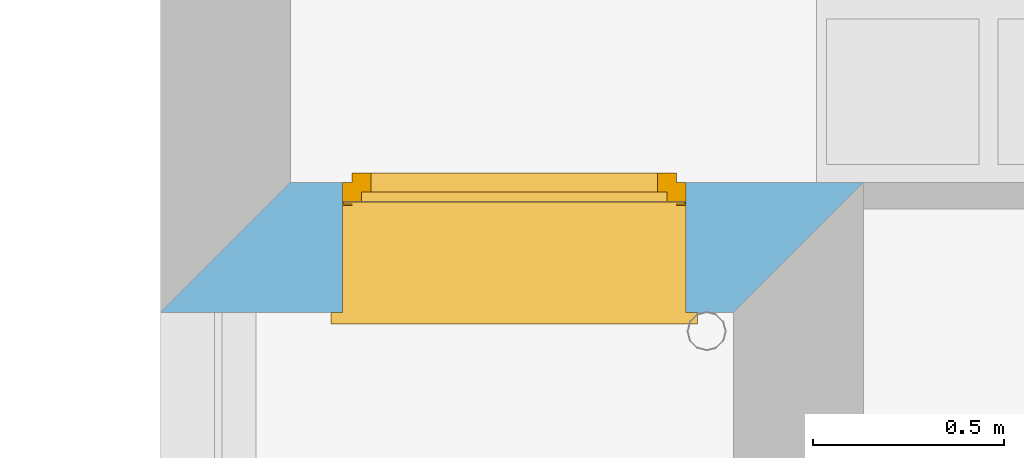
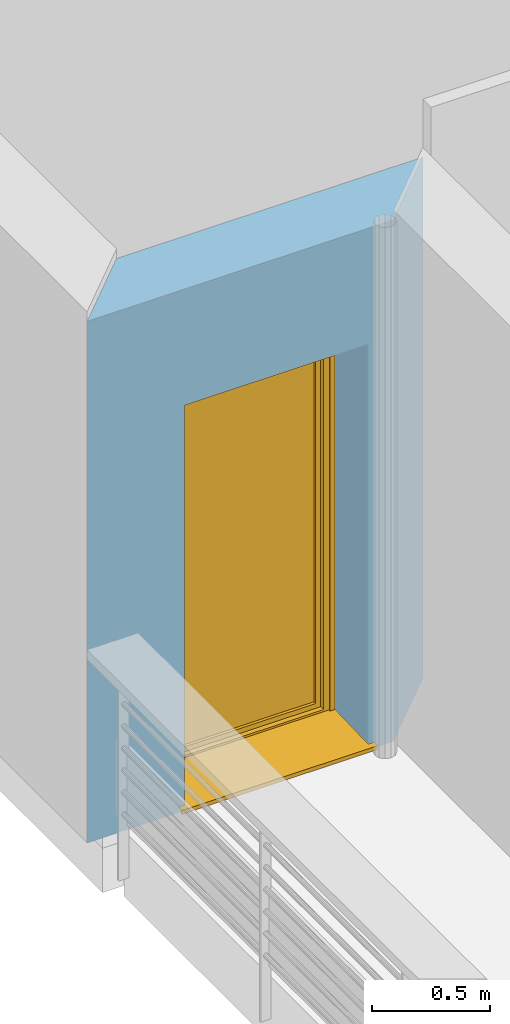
# One storey, part 107 of 171: 1 window, 1 opening, plus 1 element that does not belong to this part.
"""IFC2X3 building model written with IfcOpenShell, lengths in millimetres."""

import ifcopenshell
import ifcopenshell.guid

model = None  # the IFC model being written
_history = None  # IfcOwnerHistory: only IFC2X3 demands one
_inside = {}  # id of a spatial element -> (the spatial element, [elements in it])
_under = {}  # id of a project, library or spatial element -> (it, [spatial elements below it])
_declared = {}  # id of a project -> (the project, [libraries it declares])
_typed = {}  # id of a type object -> (the type object, [elements of that type])
_made_of = {}  # id of a material, layer set ... -> (it, [elements and type objects made of it])


def new_model(schema):
    """Start an empty IFC model of exactly this schema.

    Asked for "IFC4X3", IfcOpenShell would pick the latest addendum, in which some entities
    have other attributes; the version numbers below select the first issue.
    IFC2X3 requires an IfcOwnerHistory on every rooted entity: one is made here for all.
    """
    global model, _history
    if schema == "IFC4X3":
        model = ifcopenshell.file(schema_version=(4, 3, 0, 0))
    else:
        model = ifcopenshell.file(schema=schema)
    _inside.clear()
    _under.clear()
    _declared.clear()
    _typed.clear()
    _made_of.clear()
    _history = None
    if model.schema == "IFC2X3":
        org = make("IfcOrganization", Name="unknown")
        user = make(
            "IfcPersonAndOrganization",
            ThePerson=make("IfcPerson", FamilyName="unknown"),
            TheOrganization=org,
        )
        app = make(
            "IfcApplication",
            ApplicationDeveloper=org,
            Version="unknown",
            ApplicationFullName="unknown",
            ApplicationIdentifier="unknown",
        )
        _history = make(
            "IfcOwnerHistory",
            OwningUser=user,
            OwningApplication=app,
            ChangeAction="ADDED",
            CreationDate=0,
        )
    return model


def make(cls, **values):
    """One entity of the class cls with the attributes given. An attribute that is None is left unset."""
    return model.create_entity(
        cls, **{name: value for name, value in values.items() if value is not None}
    )


def entity(cls, *values):
    """Any entity or typed value of the class cls, its attributes in the order of the schema. None: left unset."""
    e = model.create_entity(cls)
    for i, value in enumerate(values):
        if value is not None:
            e[i] = value
    return e


def rooted(cls, **values):
    """An entity with a GlobalId (a new one), such as an element, a storey or a relation."""
    return make(cls, GlobalId=ifcopenshell.guid.new(), OwnerHistory=_history, **values)


def si_unit(unit_type, name, prefix=None):
    """IfcSIUnit, for example si_unit("LENGTHUNIT", "METRE", prefix="MILLI")."""
    return make("IfcSIUnit", UnitType=unit_type, Prefix=prefix, Name=name)


def converted_unit(unit_type, name, factor, base, dimensions=None, offset=None):
    """IfcConversionBasedUnit, such as the inch: factor (a typed value) times the base unit."""
    return make(
        "IfcConversionBasedUnit"
        if offset is None
        else "IfcConversionBasedUnitWithOffset",
        ConversionOffset=offset,
        Dimensions=None
        if dimensions is None
        else entity("IfcDimensionalExponents", *dimensions),
        UnitType=unit_type,
        Name=name,
        ConversionFactor=make(
            "IfcMeasureWithUnit", ValueComponent=factor, UnitComponent=base
        ),
    )


def derived_unit(unit_type, elements):
    """IfcDerivedUnit: a product of units, each with its exponent."""
    return make(
        "IfcDerivedUnit",
        Elements=[
            make("IfcDerivedUnitElement", Unit=unit, Exponent=power)
            for unit, power in elements
        ],
        UnitType=unit_type,
    )


def money_unit(currency):
    """IfcMonetaryUnit."""
    return make("IfcMonetaryUnit", Currency=currency)


def assignment(units):
    """IfcUnitAssignment: the units of a project."""
    return None if units is None else make("IfcUnitAssignment", Units=units)


def point(xyz):
    """IfcCartesianPoint."""
    return None if xyz is None else make("IfcCartesianPoint", Coordinates=xyz)


def direction(xyz):
    """IfcDirection."""
    return None if xyz is None else make("IfcDirection", DirectionRatios=xyz)


def frame(location, z_axis=None, x_axis=None):
    """IfcAxis2Placement3D, a coordinate frame: its origin and axes. An axis left out is left unset."""
    return make(
        "IfcAxis2Placement3D",
        Location=point(location),
        Axis=direction(z_axis),
        RefDirection=direction(x_axis),
    )


def origin_with_axes():
    """The frame at (0, 0, 0) with the z axis (0, 0, 1) and the x axis (1, 0, 0) written out."""
    return frame((0.0, 0.0, 0.0), z_axis=(0.0, 0.0, 1.0), x_axis=(1.0, 0.0, 0.0))


def place(relative_to, where):
    """IfcLocalPlacement: puts the frame where relative to a parent placement (None: the world)."""
    return make(
        "IfcLocalPlacement", PlacementRelTo=relative_to, RelativePlacement=where
    )


def context(
    kind, dimensions, precision=None, world=None, true_north=None, identifier=None
):
    """IfcGeometricRepresentationContext, for example the 3D "Model" context."""
    return make(
        "IfcGeometricRepresentationContext",
        ContextIdentifier=identifier,
        ContextType=kind,
        CoordinateSpaceDimension=dimensions,
        Precision=precision,
        WorldCoordinateSystem=world,
        TrueNorth=true_north,
    )


def subcontext(parent, identifier, kind, view, scale=None):
    """IfcGeometricRepresentationSubContext, for example "Body" below "Model"."""
    return make(
        "IfcGeometricRepresentationSubContext",
        ContextIdentifier=identifier,
        ContextType=kind,
        ParentContext=parent,
        TargetScale=scale,
        TargetView=view,
    )


def project(units=None, contexts=None):
    """IfcProject with its units and contexts."""
    return rooted(
        "IfcProject",
        Name="project",
        RepresentationContexts=contexts,
        UnitsInContext=assignment(units),
    )


def spatial(cls, under=None, at=None, **own):
    """A site, building, storey or space (cls), placed at a placement, below another one or the project."""
    s = rooted(cls, ObjectPlacement=at, **own)
    if under is not None:
        _under.setdefault(under.id(), (under, []))[1].append(s)
    return s


def polyline(points):
    """IfcPolyline through the points."""
    return make("IfcPolyline", Points=[point(p) for p in points])


def outline(outer, holes=None, kind="AREA"):
    """IfcArbitraryClosedProfileDef: a profile drawn as a closed curve; with holes, ...WithVoids."""
    if holes is None:
        return make("IfcArbitraryClosedProfileDef", ProfileType=kind, OuterCurve=outer)
    return make(
        "IfcArbitraryProfileDefWithVoids",
        ProfileType=kind,
        OuterCurve=outer,
        InnerCurves=holes,
    )


def extrude(swept, where, along, depth):
    """IfcExtrudedAreaSolid: the profile swept, set in the frame where, extruded along a direction by depth."""
    return make(
        "IfcExtrudedAreaSolid",
        SweptArea=swept,
        Position=where,
        ExtrudedDirection=direction(along),
        Depth=depth,
    )


def faces_of(points, faces, orient=None, outer=None):
    """IfcFace entities. A face is a list of loops; a loop is a list of indices into points, from 0.

    orient and outer hold one flag for each loop. By default every Orientation is true, the
    first loop of a face is its IfcFaceOuterBound and the others are IfcFaceBound.
    """
    made = []
    for i, loops in enumerate(faces):
        bounds = []
        for j, loop in enumerate(loops):
            is_outer = j == 0 if outer is None else outer[i][j]
            bounds.append(
                make(
                    "IfcFaceOuterBound" if is_outer else "IfcFaceBound",
                    Bound=make("IfcPolyLoop", Polygon=[points[k] for k in loop]),
                    Orientation=True if orient is None else orient[i][j],
                )
            )
        made.append(make("IfcFace", Bounds=bounds))
    return made


def open_shell(faces, orient=None, outer=None):
    """The faces of one IfcOpenShell. surface_model builds it on its shared points."""
    return ("IfcOpenShell", faces, orient, outer)


def faceted_brep(points, faces, orient=None, outer=None, voids=None):
    """IfcFacetedBrep: a solid bounded by flat faces; with voids (closed shells), ...WithVoids."""
    shared = [point(p) for p in points]
    hull = make("IfcClosedShell", CfsFaces=faces_of(shared, faces, orient, outer))
    if voids is None:
        return make("IfcFacetedBrep", Outer=hull)
    return make(
        "IfcFacetedBrepWithVoids",
        Outer=hull,
        Voids=[
            make(cls, CfsFaces=faces_of(shared, fs, o, b)) for cls, fs, o, b in voids
        ],
    )


def surface_model(cls, points, shells):
    """IfcFaceBasedSurfaceModel or IfcShellBasedSurfaceModel (cls): surfaces that need not close."""
    shared = [point(p) for p in points]
    made = [make(c, CfsFaces=faces_of(shared, fs, o, b)) for c, fs, o, b in shells]
    if cls == "IfcFaceBasedSurfaceModel":
        return make(cls, FbsmFaces=made)
    return make(cls, SbsmBoundary=made)


def shape(context_of_items, identifier, shape_type, items):
    """IfcShapeRepresentation: the items that make up one representation, for example the "Body"."""
    return make(
        "IfcShapeRepresentation",
        ContextOfItems=context_of_items,
        RepresentationIdentifier=identifier,
        RepresentationType=shape_type,
        Items=items,
    )


def material(Name=None, Category=None):
    """IfcMaterial."""
    return make("IfcMaterial", Name=Name, Category=Category)


def layer(
    of_material, thickness, ventilated=None, Name=None, Category=None, Priority=None
):
    """IfcMaterialLayer: one layer of a wall or slab, of a material (None: an air gap)."""
    return make(
        "IfcMaterialLayer",
        Material=of_material,
        LayerThickness=thickness,
        IsVentilated=ventilated,
        Name=Name,
        Category=Category,
        Priority=Priority,
    )


def layer_set(layers, Name=None):
    """IfcMaterialLayerSet."""
    return make("IfcMaterialLayerSet", MaterialLayers=layers, LayerSetName=Name)


def layer_usage(for_layer_set, set_direction, sense, offset, extent=None):
    """IfcMaterialLayerSetUsage: how a layer set lies in its element."""
    return make(
        "IfcMaterialLayerSetUsage",
        ForLayerSet=for_layer_set,
        LayerSetDirection=set_direction,
        DirectionSense=sense,
        OffsetFromReferenceLine=offset,
        ReferenceExtent=extent,
    )


def made_of(thing, what):
    """Note that an element or type object is made of a material, layer set ...; save() writes the relation."""
    if what is not None:
        _made_of.setdefault(what.id(), (what, []))[1].append(thing)
    return thing


def type_object(cls, material=None, **own):
    """A type object (cls), such as IfcWallType, which elements share."""
    return made_of(rooted(cls, **own), material)


def element(
    cls,
    number,
    at=None,
    inside=None,
    cuts=None,
    type_object=None,
    material=None,
    context=None,
    identifier="Body",
    shape_type=None,
    held_by="IfcProductDefinitionShape",
    body=None,
    shapes=None,
    **own,
):
    """One element of the class cls, such as IfcWall. Its Tag is "e" and its number.

    at: its placement. inside: the storey or other place that contains it. cuts: it is an
    opening in that element (IfcRelVoidsElement). A single representation is given by context,
    identifier, shape_type and body (its items); several are given by shapes. held_by: the class
    of the entity that holds the representations. save() writes the other relations.
    """
    e = rooted(cls, Tag="e%d" % number, ObjectPlacement=at, **own)
    if body is not None:
        shapes = [shape(context, identifier, shape_type, body)]
    if shapes is not None:
        e.Representation = make(held_by, Representations=shapes)
    if inside is not None:
        _inside.setdefault(inside.id(), (inside, []))[1].append(e)
    if cuts is not None:
        rooted(
            "IfcRelVoidsElement", RelatingBuildingElement=cuts, RelatedOpeningElement=e
        )
    if type_object is not None:
        _typed.setdefault(type_object.id(), (type_object, []))[1].append(e)
    return made_of(e, material)


def fill(opening, filler):
    """IfcRelFillsElement: the door or window that sits in an opening."""
    return rooted(
        "IfcRelFillsElement",
        RelatingOpeningElement=opening,
        RelatedBuildingElement=filler,
    )


def aggregate(whole, parts):
    """IfcRelAggregates: a whole, such as a stair, and the parts it consists of."""
    return rooted("IfcRelAggregates", RelatingObject=whole, RelatedObjects=parts)


def save(model, path):
    """Write the relations noted so far, then the file.

    IfcRelAggregates (storeys below a building ...), IfcRelContainedInSpatialStructure (elements
    in a storey), IfcRelDefinesByType, IfcRelAssociatesMaterial and IfcRelDeclares: one each for
    every whole, place, type object, material and project.
    """
    for whole, parts in _under.values():
        aggregate(whole, parts)
    for where, things in _inside.values():
        rooted(
            "IfcRelContainedInSpatialStructure",
            RelatedElements=things,
            RelatingStructure=where,
        )
    for kind, things in _typed.values():
        rooted("IfcRelDefinesByType", RelatedObjects=things, RelatingType=kind)
    for what, things in _made_of.values():
        rooted("IfcRelAssociatesMaterial", RelatedObjects=things, RelatingMaterial=what)
    for by, libraries in _declared.values():
        rooted("IfcRelDeclares", RelatingContext=by, RelatedDefinitions=libraries)
    model.write(path)


model = new_model("IFC2X3")

# Units and contexts
model_context = context("Model", 3, precision=0.01, world=origin_with_axes(), true_north=direction((0.0, 1.0)))
body_context = subcontext(model_context, "Body", "Model", "MODEL_VIEW")
ifc_project = project(units=[si_unit("LENGTHUNIT", "METRE", prefix="MILLI"), si_unit("AREAUNIT", "SQUARE_METRE"), si_unit("VOLUMEUNIT", "CUBIC_METRE"), converted_unit("PLANEANGLEUNIT", "DEGREE", entity("IfcPlaneAngleMeasure", 0.0174532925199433), si_unit("PLANEANGLEUNIT", "RADIAN"), dimensions=[0, 0, 0, 0, 0, 0, 0]), money_unit("USD"), converted_unit("TIMEUNIT", "Year", entity("IfcTimeMeasure", 31557600.0), si_unit("TIMEUNIT", "SECOND"), dimensions=[0, 0, 1, 0, 0, 0, 0]), si_unit("MASSUNIT", "GRAM", prefix="KILO"), si_unit("THERMODYNAMICTEMPERATUREUNIT", "DEGREE_CELSIUS"), si_unit("LUMINOUSINTENSITYUNIT", "LUMEN"), si_unit("ENERGYUNIT", "JOULE", prefix="MEGA"), derived_unit("THERMALCONDUCTANCEUNIT", [(si_unit("POWERUNIT", "WATT"), 1), (si_unit("LENGTHUNIT", "METRE"), -1), (si_unit("THERMODYNAMICTEMPERATUREUNIT", "KELVIN"), -1)]), derived_unit("SPECIFICHEATCAPACITYUNIT", [(si_unit("ENERGYUNIT", "JOULE"), 1), (si_unit("MASSUNIT", "GRAM", prefix="KILO"), -1), (si_unit("THERMODYNAMICTEMPERATUREUNIT", "KELVIN"), -1)]), derived_unit("MASSDENSITYUNIT", [(si_unit("MASSUNIT", "GRAM", prefix="KILO"), 1), (si_unit("VOLUMEUNIT", "CUBIC_METRE"), -1)])], contexts=[model_context])

# Site, building, storey
site_placement = place(None, origin_with_axes())
site = spatial("IfcSite", under=ifc_project, at=site_placement, Name="Site", CompositionType="ELEMENT")
building_placement = place(site_placement, origin_with_axes())
building = spatial("IfcBuilding", under=site, at=building_placement, Name="Bâtiment", CompositionType="ELEMENT")
storey_placement = place(building_placement, frame((0.0, 0.0, 3000.0), z_axis=(0.0, 0.0, 1.0), x_axis=(1.0, 0.0, 0.0)))
storey = spatial("IfcBuildingStorey", under=building, at=storey_placement, Name="rdc", CompositionType="ELEMENT", Elevation=3000.0)

# Wall, opening, window
ifc_material_1 = material(Name="Parpaing 312445824")
ifc_layer_1 = layer(ifc_material_1, 180.0, ventilated="UNKNOWN")
ifc_material_2 = material(Name="Isolant styromousse 301821074")
ifc_layer_2 = layer(ifc_material_2, 160.0, ventilated="UNKNOWN")
ifc_layer_set = layer_set([ifc_layer_1, ifc_layer_2], Name="isol int 18+16 0018356637")
ifc_layer_usage = layer_usage(ifc_layer_set, "AXIS2", "POSITIVE", 0.0)
wall_type = type_object("IfcWallType", Name="isol int 18+16 0018356637 340", PredefinedType="NOTDEFINED")
wall_placement = place(storey_placement, frame((2216634.312276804, -639016.8076992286, 0.0), z_axis=(0.0, 0.0, 1.0), x_axis=(1.0, 0.0, 0.0)))
wall = element("IfcWallStandardCase", 1, at=wall_placement, inside=storey, type_object=wall_type, material=ifc_layer_usage, Name="Mur-142", context=body_context, shape_type="SweptSolid", body=[
    extrude(outline(polyline([(0.0, 0.0), (1500.006155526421, 0.0), (1840.011101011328, 340.0000000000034), (339.9979968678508, 340.0000000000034), (0.0, 0.0)])), origin_with_axes(), (0.0, 0.0, 1.0), 2700.0),
])
opening_placement = place(wall_placement, frame((925.9030305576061, 0.0, 0.0), z_axis=(0.0, 0.0, 1.0), x_axis=(1.0, 0.0, 0.0)))
opening = element("IfcOpeningElement", 2, at=opening_placement, cuts=wall, Name="Fen-207", context=body_context, shape_type="Brep", body=[
    faceted_brep([(-449.9999999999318, 341.0000000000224, 2100.0), (450.0000000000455, 341.0000000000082, 2100.0), (450.0000000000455, 341.0000000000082, 0.0), (-450.0000000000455, 341.0000000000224, 0.0), (-449.9999999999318, 530.0000000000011, 2100.0), (450.0000000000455, 529.9999999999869, 2100.0), (450.0000000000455, 289.999999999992, 2100.0), (450.0000000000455, 289.999999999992, 0.0), (450.0000000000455, -1.000000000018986, 0.0), (-450.0000000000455, -1.000000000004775, 0.0), (-450.0000000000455, 290.0000000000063, 0.0), (-449.9999999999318, 290.0000000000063, 2100.0), (-449.9999999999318, 280.0000000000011, 2100.0), (-449.9999999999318, 280.0000000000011, 2350.0), (-449.9999999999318, 530.0000000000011, 2350.0), (450.0000000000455, 529.9999999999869, 2350.0), (450.0000000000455, 279.9999999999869, 2350.0), (450.0000000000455, 279.9999999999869, 2100.0), (450.0000000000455, -1.000000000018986, 2100.0), (-450.0000000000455, -1.000000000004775, 2100.0)], [[[0, 1, 2, 3]], [[1, 0, 4, 5]], [[1, 6, 7, 2]], [[7, 8, 9, 10, 3, 2]], [[11, 0, 3, 10]], [[0, 11, 12, 13, 14, 4]], [[4, 14, 15, 5]], [[6, 1, 5, 15, 16, 17]], [[6, 17, 18, 8, 7]], [[19, 9, 8, 18]], [[12, 11, 10, 9, 19]], [[12, 17, 16, 13]], [[14, 13, 16, 15]], [[17, 12, 19, 18]]]),
])
window_style = type_object("IfcWindowStyle", Name="Fenêtre 27", ConstructionType="NOTDEFINED", OperationType="SINGLE_PANEL", ParameterTakesPrecedence=False, Sizeable=False)
window_placement = place(opening_placement, frame((-449.9999999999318, 0.0, 0.0), z_axis=(0.0, 0.0, 1.0), x_axis=(1.0, 0.0, 0.0)))
window = element("IfcWindow", 3, at=window_placement, inside=storey, type_object=window_style, Name="Fen-207", OverallHeight=2100.0, OverallWidth=900.0, context=body_context, shape_type="SurfaceModel", body=[
    surface_model("IfcShellBasedSurfaceModel", [(0.0, 288.9999999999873, 40.00000000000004), (900.000000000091, 288.9999999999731, 40.00000000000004), (900.000000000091, 288.9999999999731, 49.99999999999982), (0.0, 288.9999999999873, 50.00000000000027), (-29.99999999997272, -30.00000000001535, 28.96551724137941), (930.0000000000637, -30.00000000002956, 28.96551724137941), (930.0000000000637, 0.0, 30.00324289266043), (900.000000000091, 0.0, 30.00324289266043), (0.0, 0.0, 30.00324289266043), (-29.99999999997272, 0.0, 30.00324289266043), (-29.99999999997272, -30.00000000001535, 8.965517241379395), (930.0000000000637, -30.00000000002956, 8.965517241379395), (-29.99999999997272, -20.00000000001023, 18.96551724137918), (930.0000000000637, -20.00000000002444, 18.96551724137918)], [open_shell([[[0, 1, 2, 3]], [[4, 5, 6, 7, 1, 0, 8, 9]], [[10, 11, 5, 4]], [[12, 13, 11, 10]]])]),
    faceted_brep([(900.000000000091, 279.9999999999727, 2350.0), (900.000000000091, 529.9999999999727, 2350.0), (897.0000000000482, 529.9999999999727, 2350.0), (897.0000000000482, 279.9999999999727, 2350.0), (900.000000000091, 279.9999999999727, 2100.0), (900.000000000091, 529.9999999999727, 2100.0), (897.0000000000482, 529.9999999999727, 2100.0), (897.0000000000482, 279.9999999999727, 2100.0)], [[[0, 1, 2, 3]], [[0, 4, 5, 1]], [[1, 5, 6, 2]], [[3, 2, 6, 7]], [[4, 0, 3, 7]], [[5, 4, 7, 6]]]),
    faceted_brep([(3.000000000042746, 279.9999999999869, 2350.0), (3.000000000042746, 529.9999999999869, 2350.0), (0.0, 529.9999999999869, 2350.0), (0.0, 279.9999999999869, 2350.0), (3.000000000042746, 279.9999999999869, 2100.0), (3.000000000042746, 529.9999999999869, 2100.0), (0.0, 529.9999999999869, 2100.0), (0.0, 279.9999999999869, 2100.0)], [[[0, 1, 2, 3]], [[0, 4, 5, 1]], [[1, 5, 6, 2]], [[3, 2, 6, 7]], [[4, 0, 3, 7]], [[5, 4, 7, 6]]]),
    faceted_brep([(897.0000000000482, 279.9999999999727, 2100.0), (897.0000000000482, 279.9999999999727, 2350.0), (3.000000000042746, 279.9999999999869, 2350.0), (3.000000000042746, 279.9999999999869, 2100.0), (897.0000000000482, 282.9999999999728, 2100.0), (897.0000000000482, 282.9999999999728, 2347.0), (897.0000000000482, 526.9999999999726, 2347.0), (897.0000000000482, 526.9999999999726, 2103.0), (897.0000000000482, 301.9999999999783, 2103.0), (897.0000000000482, 301.9999999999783, 2100.0), (897.0000000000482, 529.9999999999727, 2100.0), (897.0000000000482, 529.9999999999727, 2350.0), (3.000000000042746, 529.9999999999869, 2350.0), (3.000000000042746, 529.9999999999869, 2100.0), (3.000000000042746, 301.9999999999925, 2100.0), (3.000000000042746, 301.9999999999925, 2103.0), (3.000000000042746, 526.9999999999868, 2103.0), (3.000000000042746, 526.9999999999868, 2347.0), (3.000000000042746, 282.999999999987, 2347.0), (3.000000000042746, 282.999999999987, 2100.0)], [[[0, 1, 2, 3]], [[0, 4, 5, 6, 7, 8, 9, 10, 11, 1]], [[1, 11, 12, 2]], [[3, 2, 12, 13, 14, 15, 16, 17, 18, 19]], [[4, 0, 3, 19]], [[5, 4, 19, 18]], [[6, 5, 18, 17]], [[7, 6, 17, 16]], [[8, 7, 16, 15]], [[9, 8, 15, 14]], [[10, 9, 14, 13]], [[11, 10, 13, 12]]]),
    faceted_brep([(894.0000000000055, 299.6255704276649, 2206.419644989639), (894.0000000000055, 304.4528895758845, 2188.403844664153), (894.0000000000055, 312.3352817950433, 2171.5), (894.0000000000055, 323.0332445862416, 2156.22172576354), (894.0000000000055, 336.2217257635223, 2143.03324458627), (894.0000000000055, 351.4999999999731, 2132.335281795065), (894.0000000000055, 368.4038446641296, 2124.452889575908), (894.0000000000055, 386.4196449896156, 2119.625570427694), (894.0000000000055, 404.9999999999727, 2118.0), (894.0000000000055, 423.5803550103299, 2119.625570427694), (894.0000000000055, 441.5961553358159, 2124.452889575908), (894.0000000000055, 458.4999999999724, 2132.335281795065), (894.0000000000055, 473.7782742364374, 2143.03324458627), (894.0000000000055, 486.9667554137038, 2156.22172576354), (894.0000000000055, 497.6647182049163, 2171.5), (894.0000000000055, 505.547110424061, 2188.403844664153), (894.0000000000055, 510.3744295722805, 2206.419644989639), (894.0000000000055, 511.999999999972, 2225.0), (894.0000000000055, 510.3744295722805, 2243.580355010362), (894.0000000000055, 505.547110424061, 2261.596155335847), (894.0000000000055, 497.6647182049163, 2278.5), (894.0000000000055, 486.9667554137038, 2293.77827423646), (894.0000000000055, 473.7782742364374, 2306.966755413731), (894.0000000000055, 458.4999999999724, 2317.664718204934), (894.0000000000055, 441.5961553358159, 2325.547110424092), (894.0000000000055, 423.5803550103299, 2330.374429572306), (894.0000000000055, 404.9999999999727, 2332.0), (894.0000000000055, 386.4196449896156, 2330.374429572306), (894.0000000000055, 368.4038446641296, 2325.547110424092), (894.0000000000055, 351.4999999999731, 2317.664718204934), (894.0000000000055, 336.2217257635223, 2306.966755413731), (894.0000000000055, 323.0332445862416, 2293.77827423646), (894.0000000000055, 312.3352817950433, 2278.5), (894.0000000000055, 304.4528895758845, 2261.596155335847), (894.0000000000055, 299.6255704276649, 2243.580355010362), (894.0000000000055, 297.9999999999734, 2225.0), (6.000000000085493, 299.6255704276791, 2206.419644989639), (6.000000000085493, 304.4528895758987, 2188.403844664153), (6.000000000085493, 312.3352817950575, 2171.5), (6.000000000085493, 323.0332445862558, 2156.22172576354), (6.000000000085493, 336.2217257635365, 2143.03324458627), (6.000000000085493, 351.4999999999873, 2132.335281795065), (6.000000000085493, 368.4038446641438, 2124.452889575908), (6.000000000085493, 386.4196449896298, 2119.625570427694), (6.000000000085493, 404.9999999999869, 2118.0), (6.000000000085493, 423.5803550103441, 2119.625570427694), (6.000000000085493, 441.5961553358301, 2124.452889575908), (6.000000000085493, 458.4999999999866, 2132.335281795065), (6.000000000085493, 473.7782742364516, 2143.03324458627), (6.000000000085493, 486.966755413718, 2156.22172576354), (6.000000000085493, 497.6647182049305, 2171.5), (6.000000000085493, 505.5471104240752, 2188.403844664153), (6.000000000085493, 510.3744295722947, 2206.419644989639), (6.000000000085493, 511.9999999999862, 2225.0), (6.000000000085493, 510.3744295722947, 2243.580355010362), (6.000000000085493, 505.5471104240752, 2261.596155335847), (6.000000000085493, 497.6647182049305, 2278.5), (6.000000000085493, 486.966755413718, 2293.77827423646), (6.000000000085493, 473.7782742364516, 2306.966755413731), (6.000000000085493, 458.4999999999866, 2317.664718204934), (6.000000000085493, 441.5961553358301, 2325.547110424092), (6.000000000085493, 423.5803550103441, 2330.374429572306), (6.000000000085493, 404.9999999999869, 2332.0), (6.000000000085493, 386.4196449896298, 2330.374429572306), (6.000000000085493, 368.4038446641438, 2325.547110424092), (6.000000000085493, 351.4999999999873, 2317.664718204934), (6.000000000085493, 336.2217257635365, 2306.966755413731), (6.000000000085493, 323.0332445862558, 2293.77827423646), (6.000000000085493, 312.3352817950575, 2278.5), (6.000000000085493, 304.4528895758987, 2261.596155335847), (6.000000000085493, 299.6255704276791, 2243.580355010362), (6.000000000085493, 297.9999999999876, 2225.0)], [[[0, 1, 2, 3, 4, 5, 6, 7, 8, 9, 10, 11, 12, 13, 14, 15, 16, 17, 18, 19, 20, 21, 22, 23, 24, 25, 26, 27, 28, 29, 30, 31, 32, 33, 34, 35]], [[1, 0, 36, 37]], [[2, 1, 37, 38]], [[3, 2, 38, 39]], [[4, 3, 39, 40]], [[5, 4, 40, 41]], [[6, 5, 41, 42]], [[7, 6, 42, 43]], [[8, 7, 43, 44]], [[9, 8, 44, 45]], [[10, 9, 45, 46]], [[11, 10, 46, 47]], [[12, 11, 47, 48]], [[13, 12, 48, 49]], [[14, 13, 49, 50]], [[15, 14, 50, 51]], [[16, 15, 51, 52]], [[17, 16, 52, 53]], [[18, 17, 53, 54]], [[19, 18, 54, 55]], [[20, 19, 55, 56]], [[21, 20, 56, 57]], [[22, 21, 57, 58]], [[23, 22, 58, 59]], [[24, 23, 59, 60]], [[25, 24, 60, 61]], [[26, 25, 61, 62]], [[27, 26, 62, 63]], [[28, 27, 63, 64]], [[29, 28, 64, 65]], [[30, 29, 65, 66]], [[31, 30, 66, 67]], [[32, 31, 67, 68]], [[33, 32, 68, 69]], [[34, 33, 69, 70]], [[35, 34, 70, 71]], [[0, 35, 71, 36]], [[36, 71, 70, 69, 68, 67, 66, 65, 64, 63, 62, 61, 60, 59, 58, 57, 56, 55, 54, 53, 52, 51, 50, 49, 48, 47, 46, 45, 44, 43, 42, 41, 40, 39, 38, 37]]]),
    faceted_brep([(0.0, 304.9999999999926, 29.9999999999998), (0.0, 279.9999999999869, 29.9999999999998), (0.0, 279.9999999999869, 2100.0), (0.0, 304.9999999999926, 2100.0), (25.00000000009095, 304.9999999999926, 29.9999999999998), (25.00000000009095, 301.9999999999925, 29.9999999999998), (3.000000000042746, 301.9999999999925, 29.9999999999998), (3.000000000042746, 282.999999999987, 29.9999999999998), (25.00000000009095, 282.999999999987, 29.9999999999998), (25.00000000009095, 279.9999999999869, 29.9999999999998), (25.00000000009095, 279.9999999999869, 2100.0), (25.00000000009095, 282.999999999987, 2100.0), (3.000000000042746, 282.999999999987, 2100.0), (3.000000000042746, 301.9999999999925, 2100.0), (25.00000000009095, 301.9999999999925, 2100.0), (25.00000000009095, 304.9999999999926, 2100.0)], [[[0, 1, 2, 3]], [[0, 4, 5, 6, 7, 8, 9, 1]], [[1, 9, 10, 2]], [[3, 2, 10, 11, 12, 13, 14, 15]], [[4, 0, 3, 15]], [[5, 4, 15, 14]], [[6, 5, 14, 13]], [[7, 6, 13, 12]], [[8, 7, 12, 11]], [[9, 8, 11, 10]]]),
    faceted_brep([(900.000000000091, 304.9999999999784, 29.9999999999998), (900.000000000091, 304.9999999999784, 2100.0), (900.000000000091, 279.9999999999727, 2100.0), (900.000000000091, 279.9999999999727, 29.9999999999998), (875.0, 304.9999999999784, 29.9999999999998), (875.0, 304.9999999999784, 2100.0), (875.0, 301.9999999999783, 2100.0), (897.0000000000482, 301.9999999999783, 2100.0), (897.0000000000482, 282.9999999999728, 2100.0), (875.0, 282.9999999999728, 2100.0), (875.0, 279.9999999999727, 2100.0), (875.0, 279.9999999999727, 29.9999999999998), (875.0, 282.9999999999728, 29.9999999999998), (897.0000000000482, 282.9999999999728, 29.9999999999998), (897.0000000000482, 301.9999999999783, 29.9999999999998), (875.0, 301.9999999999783, 29.9999999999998)], [[[0, 1, 2, 3]], [[4, 5, 1, 0]], [[1, 5, 6, 7, 8, 9, 10, 2]], [[3, 2, 10, 11]], [[0, 3, 11, 12, 13, 14, 15, 4]], [[15, 6, 5, 4]], [[14, 7, 6, 15]], [[13, 8, 7, 14]], [[12, 9, 8, 13]], [[11, 10, 9, 12]]]),
    faceted_brep([(3.000000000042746, 293.3333333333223, 2225.0), (897.0000000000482, 293.3333333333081, 2225.0), (897.0000000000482, 293.3333333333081, 2216.666666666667), (3.000000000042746, 293.3333333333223, 2216.666666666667), (3.000000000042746, 288.3333333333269, 2225.0), (897.0000000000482, 288.3333333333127, 2225.0), (897.0000000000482, 288.3333333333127, 2216.666666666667), (897.0000000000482, 289.9999999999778, 2200.000000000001), (897.0000000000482, 294.9999999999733, 2200.000000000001), (3.000000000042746, 294.9999999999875, 2200.000000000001), (3.000000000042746, 289.999999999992, 2200.000000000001), (3.000000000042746, 288.3333333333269, 2216.666666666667)], [[[0, 1, 2, 3]], [[1, 0, 4, 5]], [[1, 5, 6, 7, 8, 2]], [[2, 8, 9, 3]], [[4, 0, 3, 9, 10, 11]], [[6, 5, 4, 11]], [[7, 6, 11, 10]], [[8, 7, 10, 9]]]),
    faceted_brep([(897.0000000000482, 294.9999999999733, 2200.000000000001), (897.0000000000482, 293.3333333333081, 2183.333333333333), (3.000000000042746, 293.3333333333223, 2183.333333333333), (3.000000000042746, 294.9999999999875, 2200.000000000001), (897.0000000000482, 289.9999999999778, 2200.000000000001), (897.0000000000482, 288.3333333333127, 2183.333333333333), (897.0000000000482, 288.3333333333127, 2166.666666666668), (897.0000000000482, 289.9999999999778, 2150.0), (897.0000000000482, 294.9999999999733, 2150.0), (897.0000000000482, 293.3333333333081, 2166.666666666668), (3.000000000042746, 293.3333333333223, 2166.666666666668), (3.000000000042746, 294.9999999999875, 2150.0), (3.000000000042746, 289.999999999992, 2150.0), (3.000000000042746, 288.3333333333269, 2166.666666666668), (3.000000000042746, 288.3333333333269, 2183.333333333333), (3.000000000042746, 289.999999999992, 2200.000000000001)], [[[0, 1, 2, 3]], [[0, 4, 5, 6, 7, 8, 9, 1]], [[1, 9, 10, 2]], [[3, 2, 10, 11, 12, 13, 14, 15]], [[4, 0, 3, 15]], [[5, 4, 15, 14]], [[6, 5, 14, 13]], [[7, 6, 13, 12]], [[8, 7, 12, 11]], [[9, 8, 11, 10]]]),
    faceted_brep([(897.0000000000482, 294.9999999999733, 2150.0), (897.0000000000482, 293.3333333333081, 2133.333333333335), (3.000000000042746, 293.3333333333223, 2133.333333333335), (3.000000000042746, 294.9999999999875, 2150.0), (897.0000000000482, 289.9999999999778, 2150.0), (897.0000000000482, 288.3333333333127, 2133.333333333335), (897.0000000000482, 288.3333333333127, 2116.666666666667), (897.0000000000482, 289.9999999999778, 2100.000000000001), (897.0000000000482, 294.9999999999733, 2100.000000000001), (897.0000000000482, 293.3333333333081, 2116.666666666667), (3.000000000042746, 293.3333333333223, 2116.666666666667), (3.000000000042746, 294.9999999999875, 2100.000000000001), (3.000000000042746, 289.999999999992, 2100.000000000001), (3.000000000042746, 288.3333333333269, 2116.666666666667), (3.000000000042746, 288.3333333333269, 2133.333333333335), (3.000000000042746, 289.999999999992, 2150.0)], [[[0, 1, 2, 3]], [[0, 4, 5, 6, 7, 8, 9, 1]], [[1, 9, 10, 2]], [[3, 2, 10, 11, 12, 13, 14, 15]], [[4, 0, 3, 15]], [[5, 4, 15, 14]], [[6, 5, 14, 13]], [[7, 6, 13, 12]], [[8, 7, 12, 11]], [[9, 8, 11, 10]]]),
    faceted_brep([(875.0, 339.999999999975, 2050.000000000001), (875.0, 314.9999999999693, 2050.000000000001), (850.0000000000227, 314.9999999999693, 2050.000000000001), (850.0000000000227, 289.9999999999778, 2050.000000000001), (900.000000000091, 289.9999999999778, 2050.000000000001), (900.000000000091, 339.999999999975, 2050.000000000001), (875.0, 339.999999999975, 50.00000000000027), (875.0, 314.9999999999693, 50.00000000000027), (850.0000000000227, 314.9999999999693, 49.99999999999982), (850.0000000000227, 289.9999999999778, 49.99999999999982), (900.000000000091, 289.9999999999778, 49.99999999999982), (900.000000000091, 339.999999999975, 50.00000000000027)], [[[0, 1, 2, 3, 4, 5]], [[1, 0, 6, 7]], [[8, 2, 1, 7]], [[2, 8, 9, 3]], [[4, 3, 9, 10]], [[5, 4, 10, 11]], [[6, 0, 5, 11]], [[7, 6, 11, 10, 9, 8]]]),
    faceted_brep([(50.00000000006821, 314.9999999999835, 2050.000000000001), (25.00000000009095, 314.9999999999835, 2050.000000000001), (25.00000000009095, 339.9999999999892, 2050.000000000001), (0.0, 339.9999999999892, 2050.000000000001), (0.0, 289.999999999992, 2050.000000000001), (50.00000000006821, 289.999999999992, 2050.000000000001), (50.00000000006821, 314.9999999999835, 49.99999999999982), (25.00000000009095, 314.9999999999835, 49.99999999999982), (25.00000000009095, 339.9999999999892, 50.00000000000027), (0.0, 339.9999999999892, 50.00000000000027), (0.0, 289.999999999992, 49.99999999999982), (50.00000000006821, 289.999999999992, 49.99999999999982)], [[[0, 1, 2, 3, 4, 5]], [[1, 0, 6, 7]], [[8, 2, 1, 7]], [[2, 8, 9, 3]], [[9, 10, 4, 3]], [[10, 11, 5, 4]], [[6, 0, 5, 11]], [[7, 6, 11, 10, 9, 8]]]),
    faceted_brep([(50.00000000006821, 314.9999999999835, 49.99999999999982), (25.00000000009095, 314.9999999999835, 49.99999999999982), (25.00000000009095, 339.9999999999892, 50.00000000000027), (0.0, 339.9999999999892, 50.00000000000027), (0.0, 289.999999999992, 49.99999999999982), (50.00000000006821, 289.999999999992, 49.99999999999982), (850.0000000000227, 314.9999999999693, 49.99999999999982), (875.0, 314.9999999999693, 50.00000000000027), (875.0, 314.9999999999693, 24.99999999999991), (25.00000000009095, 314.9999999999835, 24.99999999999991), (25.00000000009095, 339.9999999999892, 24.99999999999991), (875.0, 339.999999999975, 24.99999999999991), (875.0, 339.999999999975, 50.00000000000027), (900.000000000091, 339.999999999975, 50.00000000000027), (900.000000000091, 339.999999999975, 0.0), (0.0, 339.9999999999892, 0.0), (0.0, 289.999999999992, 0.0), (900.000000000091, 289.9999999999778, 49.99999999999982), (850.0000000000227, 289.9999999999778, 49.99999999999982), (900.000000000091, 289.9999999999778, 0.0)], [[[0, 1, 2, 3, 4, 5]], [[1, 0, 6, 7, 8, 9]], [[10, 2, 1, 9]], [[11, 12, 13, 14, 15, 3, 2, 10]], [[15, 16, 4, 3]], [[17, 18, 5, 4, 16, 19]], [[6, 0, 5, 18]], [[7, 6, 18, 17, 13, 12]], [[7, 12, 11, 8]], [[11, 10, 9, 8]], [[13, 17, 19, 14]], [[14, 19, 16, 15]]]),
    faceted_brep([(875.0, 339.999999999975, 2050.000000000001), (875.0, 339.999999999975, 2075.0), (25.00000000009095, 339.9999999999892, 2075.0), (25.00000000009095, 339.9999999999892, 2050.000000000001), (0.0, 339.9999999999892, 2050.000000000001), (0.0, 339.9999999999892, 2100.0), (900.000000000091, 339.999999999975, 2100.0), (900.000000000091, 339.999999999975, 2050.000000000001), (875.0, 314.9999999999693, 2050.000000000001), (875.0, 314.9999999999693, 2075.0), (25.00000000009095, 314.9999999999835, 2075.0), (25.00000000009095, 314.9999999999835, 2050.000000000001), (50.00000000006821, 314.9999999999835, 2050.000000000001), (50.00000000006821, 289.999999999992, 2050.000000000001), (0.0, 289.999999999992, 2050.000000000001), (0.0, 289.999999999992, 2100.0), (900.000000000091, 289.9999999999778, 2100.0), (900.000000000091, 289.9999999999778, 2050.000000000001), (850.0000000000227, 289.9999999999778, 2050.000000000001), (850.0000000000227, 314.9999999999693, 2050.000000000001)], [[[0, 1, 2, 3, 4, 5, 6, 7]], [[1, 0, 8, 9]], [[2, 1, 9, 10]], [[3, 2, 10, 11]], [[11, 12, 13, 14, 4, 3]], [[4, 14, 15, 5]], [[5, 15, 16, 6]], [[6, 16, 17, 7]], [[8, 0, 7, 17, 18, 19]], [[12, 11, 10, 9, 8, 19]], [[12, 19, 18, 13]], [[14, 13, 18, 17, 16, 15]]]),
    faceted_brep([(825.0000000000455, 314.9999999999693, 2025.0), (875.0, 314.9999999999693, 2025.0), (875.0, 364.9999999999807, 2025.0), (825.0000000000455, 364.9999999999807, 2025.0), (825.0000000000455, 314.9999999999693, 75.00000000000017), (875.0, 314.9999999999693, 75.00000000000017), (875.0, 364.9999999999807, 75.00000000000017), (825.0000000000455, 364.9999999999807, 75.00000000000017)], [[[0, 1, 2, 3]], [[0, 4, 5, 1]], [[1, 5, 6, 2]], [[3, 2, 6, 7]], [[4, 0, 3, 7]], [[5, 4, 7, 6]]]),
    faceted_brep([(75.00000000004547, 314.9999999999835, 75.00000000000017), (25.00000000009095, 314.9999999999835, 75.00000000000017), (25.00000000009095, 364.9999999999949, 75.00000000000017), (75.00000000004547, 364.9999999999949, 75.00000000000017), (75.00000000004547, 314.9999999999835, 2025.0), (25.00000000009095, 314.9999999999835, 2025.0), (25.00000000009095, 364.9999999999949, 2025.0), (75.00000000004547, 364.9999999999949, 2025.0)], [[[0, 1, 2, 3]], [[0, 4, 5, 1]], [[1, 5, 6, 2]], [[3, 2, 6, 7]], [[4, 0, 3, 7]], [[5, 4, 7, 6]]]),
    faceted_brep([(25.00000000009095, 314.9999999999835, 24.99999999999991), (25.00000000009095, 314.9999999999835, 75.00000000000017), (25.00000000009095, 364.9999999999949, 75.00000000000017), (25.00000000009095, 364.9999999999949, 24.99999999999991), (875.0, 314.9999999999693, 24.99999999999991), (875.0, 314.9999999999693, 75.00000000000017), (825.0000000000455, 314.9999999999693, 75.00000000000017), (75.00000000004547, 314.9999999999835, 75.00000000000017), (75.00000000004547, 364.9999999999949, 75.00000000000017), (825.0000000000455, 364.9999999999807, 75.00000000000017), (875.0, 364.9999999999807, 75.00000000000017), (875.0, 364.9999999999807, 24.99999999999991)], [[[0, 1, 2, 3]], [[0, 4, 5, 6, 7, 1]], [[1, 7, 8, 2]], [[3, 2, 8, 9, 10, 11]], [[4, 0, 3, 11]], [[5, 4, 11, 10]], [[6, 5, 10, 9]], [[7, 6, 9, 8]]]),
    faceted_brep([(875.0, 314.9999999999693, 2075.0), (875.0, 314.9999999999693, 2025.0), (875.0, 364.9999999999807, 2025.0), (875.0, 364.9999999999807, 2075.0), (25.00000000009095, 314.9999999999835, 2075.0), (25.00000000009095, 314.9999999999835, 2025.0), (75.00000000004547, 314.9999999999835, 2025.0), (825.0000000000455, 314.9999999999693, 2025.0), (825.0000000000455, 364.9999999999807, 2025.0), (75.00000000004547, 364.9999999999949, 2025.0), (25.00000000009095, 364.9999999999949, 2025.0), (25.00000000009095, 364.9999999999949, 2075.0)], [[[0, 1, 2, 3]], [[0, 4, 5, 6, 7, 1]], [[1, 7, 8, 2]], [[3, 2, 8, 9, 10, 11]], [[4, 0, 3, 11]], [[5, 4, 11, 10]], [[6, 5, 10, 9]], [[7, 6, 9, 8]]]),
    surface_model("IfcShellBasedSurfaceModel", [(825.0000000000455, 329.9999999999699, 75.00000000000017), (825.0000000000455, 329.9999999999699, 2025.0), (75.00000000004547, 329.9999999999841, 2025.0), (75.00000000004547, 329.9999999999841, 75.00000000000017)], [open_shell([[[0, 1, 2, 3]]])]),
    surface_model("IfcShellBasedSurfaceModel", [(825.0000000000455, 349.9999999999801, 75.00000000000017), (75.00000000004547, 349.9999999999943, 75.00000000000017), (75.00000000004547, 349.9999999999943, 2025.0), (825.0000000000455, 349.9999999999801, 2025.0)], [open_shell([[[0, 1, 2, 3]]])]),
])
fill(opening, window)

save(model, "model.ifc")
